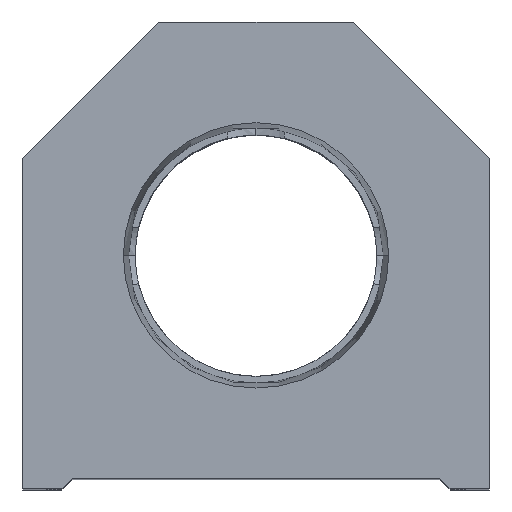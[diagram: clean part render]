
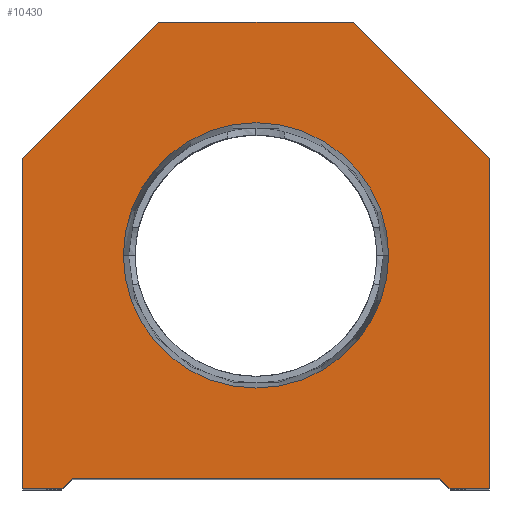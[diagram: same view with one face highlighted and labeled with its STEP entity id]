
A CAD part, top view. The second image highlights one B-rep face of the part: STEP entity #10430.
In plain terms, the highlighted planar face has unit normal (0, 0, 1).
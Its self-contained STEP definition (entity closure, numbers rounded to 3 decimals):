
#131 = EDGE_CURVE ( 'NONE', #5506, #4342, #4603, .T. ) ;
#657 = DIRECTION ( 'NONE',  ( -1., 0., 0. ) ) ;
#836 = ORIENTED_EDGE ( 'NONE', *, *, #2770, .F. ) ;
#989 = CARTESIAN_POINT ( 'NONE',  ( 0., 22.25, 0. ) ) ;
#1023 = CARTESIAN_POINT ( 'NONE',  ( 22.25, 31.5, 0. ) ) ;
#1057 = DIRECTION ( 'NONE',  ( 1., 0., 0. ) ) ;
#1133 = VERTEX_POINT ( 'NONE', #11142 ) ;
#1317 = DIRECTION ( 'NONE',  ( 0., 1., 0. ) ) ;
#1343 = DIRECTION ( 'NONE',  ( -0.707, -0.707, 0. ) ) ;
#1416 = CARTESIAN_POINT ( 'NONE',  ( -9.25, 9.25, 0. ) ) ;
#1571 = ORIENTED_EDGE ( 'NONE', *, *, #9026, .T. ) ;
#1693 = DIRECTION ( 'NONE',  ( 0., -1., 0. ) ) ;
#1852 = FACE_BOUND ( 'NONE', #3216, .T. ) ;
#2054 = VECTOR ( 'NONE', #10414, 1000. ) ;
#2201 = CARTESIAN_POINT ( 'NONE',  ( -22.25, 31.5, 0. ) ) ;
#2367 = DIRECTION ( 'NONE',  ( 0., 0., 1. ) ) ;
#2419 = VERTEX_POINT ( 'NONE', #4222 ) ;
#2427 = CIRCLE ( 'NONE', #9835, 12.647 ) ;
#2480 = VERTEX_POINT ( 'NONE', #5292 ) ;
#2770 = EDGE_CURVE ( 'NONE', #11429, #2480, #2427, .T. ) ;
#2788 = CARTESIAN_POINT ( 'NONE',  ( 12.647, 22.25, 0. ) ) ;
#2912 = DIRECTION ( 'NONE',  ( 1., 0., 0. ) ) ;
#3011 = CARTESIAN_POINT ( 'NONE',  ( -9.25, 44.5, 0. ) ) ;
#3216 = EDGE_LOOP ( 'NONE', ( #836, #7966 ) ) ;
#3247 = ORIENTED_EDGE ( 'NONE', *, *, #7306, .T. ) ;
#3328 = CARTESIAN_POINT ( 'NONE',  ( -17.5, 1., 0. ) ) ;
#3363 = FACE_OUTER_BOUND ( 'NONE', #5759, .T. ) ;
#3619 = LINE ( 'NONE', #8672, #8627 ) ;
#3695 = VERTEX_POINT ( 'NONE', #3011 ) ;
#3752 = AXIS2_PLACEMENT_3D ( 'NONE', #989, #7168, #1057 ) ;
#4113 = LINE ( 'NONE', #12206, #10089 ) ;
#4201 = DIRECTION ( 'NONE',  ( -0.707, 0.707, 0. ) ) ;
#4222 = CARTESIAN_POINT ( 'NONE',  ( 17.5, 1., 0. ) ) ;
#4255 = CARTESIAN_POINT ( 'NONE',  ( 22.25, 0., 0. ) ) ;
#4288 = CARTESIAN_POINT ( 'NONE',  ( 9.25, 44.5, 0. ) ) ;
#4342 = VERTEX_POINT ( 'NONE', #7210 ) ;
#4594 = ORIENTED_EDGE ( 'NONE', *, *, #131, .T. ) ;
#4603 = LINE ( 'NONE', #9715, #5577 ) ;
#4712 = DIRECTION ( 'NONE',  ( 1., 0., 0. ) ) ;
#4868 = CARTESIAN_POINT ( 'NONE',  ( -17.5, 1., 0. ) ) ;
#4903 = EDGE_CURVE ( 'NONE', #7630, #9595, #10255, .T. ) ;
#5129 = ORIENTED_EDGE ( 'NONE', *, *, #8671, .T. ) ;
#5292 = CARTESIAN_POINT ( 'NONE',  ( -12.647, 22.25, 0. ) ) ;
#5457 = LINE ( 'NONE', #2201, #9472 ) ;
#5506 = VERTEX_POINT ( 'NONE', #7326 ) ;
#5577 = VECTOR ( 'NONE', #1693, 1000. ) ;
#5650 = VERTEX_POINT ( 'NONE', #9510 ) ;
#5759 = EDGE_LOOP ( 'NONE', ( #8805, #8532, #5129, #5765, #1571, #10313, #10455, #3247, #9525, #4594 ) ) ;
#5765 = ORIENTED_EDGE ( 'NONE', *, *, #9535, .T. ) ;
#6074 = VECTOR ( 'NONE', #11539, 1000. ) ;
#6179 = EDGE_CURVE ( 'NONE', #4342, #1133, #10000, .T. ) ;
#6457 = LINE ( 'NONE', #3328, #6074 ) ;
#6651 = DIRECTION ( 'NONE',  ( 0., 0., 1. ) ) ;
#7112 = VECTOR ( 'NONE', #1317, 1000. ) ;
#7168 = DIRECTION ( 'NONE',  ( 0., 0., 1. ) ) ;
#7210 = CARTESIAN_POINT ( 'NONE',  ( -22.25, 0., 0. ) ) ;
#7283 = CARTESIAN_POINT ( 'NONE',  ( 0., 0., 0. ) ) ;
#7306 = EDGE_CURVE ( 'NONE', #12756, #3695, #12971, .T. ) ;
#7326 = CARTESIAN_POINT ( 'NONE',  ( -22.25, 31.5, 0. ) ) ;
#7428 = CARTESIAN_POINT ( 'NONE',  ( 22.25, 0., 0. ) ) ;
#7583 = AXIS2_PLACEMENT_3D ( 'NONE', #7283, #2367, #11298 ) ;
#7630 = VERTEX_POINT ( 'NONE', #4255 ) ;
#7966 = ORIENTED_EDGE ( 'NONE', *, *, #8964, .F. ) ;
#7982 = DIRECTION ( 'NONE',  ( 0.707, -0.707, 0. ) ) ;
#8056 = LINE ( 'NONE', #1023, #10919 ) ;
#8253 = VERTEX_POINT ( 'NONE', #4868 ) ;
#8331 = EDGE_CURVE ( 'NONE', #9595, #12756, #8056, .T. ) ;
#8373 = VECTOR ( 'NONE', #2912, 1000. ) ;
#8532 = ORIENTED_EDGE ( 'NONE', *, *, #9686, .T. ) ;
#8627 = VECTOR ( 'NONE', #11456, 1000. ) ;
#8671 = EDGE_CURVE ( 'NONE', #8253, #2419, #6457, .T. ) ;
#8672 = CARTESIAN_POINT ( 'NONE',  ( 17.5, 0., 0. ) ) ;
#8805 = ORIENTED_EDGE ( 'NONE', *, *, #6179, .T. ) ;
#8964 = EDGE_CURVE ( 'NONE', #2480, #11429, #9883, .T. ) ;
#9026 = EDGE_CURVE ( 'NONE', #5650, #7630, #3619, .T. ) ;
#9472 = VECTOR ( 'NONE', #1343, 1000. ) ;
#9510 = CARTESIAN_POINT ( 'NONE',  ( 18.5, 0., 0. ) ) ;
#9525 = ORIENTED_EDGE ( 'NONE', *, *, #9714, .T. ) ;
#9535 = EDGE_CURVE ( 'NONE', #2419, #5650, #4113, .T. ) ;
#9595 = VERTEX_POINT ( 'NONE', #13002 ) ;
#9686 = EDGE_CURVE ( 'NONE', #1133, #8253, #12410, .T. ) ;
#9714 = EDGE_CURVE ( 'NONE', #3695, #5506, #5457, .T. ) ;
#9715 = CARTESIAN_POINT ( 'NONE',  ( -22.25, 0., 0. ) ) ;
#9764 = CARTESIAN_POINT ( 'NONE',  ( 0., 22.25, 0. ) ) ;
#9804 = CARTESIAN_POINT ( 'NONE',  ( 9.25, 44.5, 0. ) ) ;
#9835 = AXIS2_PLACEMENT_3D ( 'NONE', #9764, #6651, #4712 ) ;
#9883 = CIRCLE ( 'NONE', #3752, 12.647 ) ;
#10000 = LINE ( 'NONE', #11993, #8373 ) ;
#10089 = VECTOR ( 'NONE', #7982, 1000. ) ;
#10255 = LINE ( 'NONE', #7428, #7112 ) ;
#10313 = ORIENTED_EDGE ( 'NONE', *, *, #4903, .T. ) ;
#10414 = DIRECTION ( 'NONE',  ( 0.707, 0.707, 0. ) ) ;
#10430 = ADVANCED_FACE ( 'NONE', ( #1852, #3363 ), #11507, .T. ) ;
#10455 = ORIENTED_EDGE ( 'NONE', *, *, #8331, .T. ) ;
#10502 = VECTOR ( 'NONE', #657, 1000. ) ;
#10919 = VECTOR ( 'NONE', #4201, 1000. ) ;
#11142 = CARTESIAN_POINT ( 'NONE',  ( -18.5, 0., 0. ) ) ;
#11298 = DIRECTION ( 'NONE',  ( 1., 0., 0. ) ) ;
#11429 = VERTEX_POINT ( 'NONE', #2788 ) ;
#11456 = DIRECTION ( 'NONE',  ( 1., 0., 0. ) ) ;
#11507 = PLANE ( 'NONE',  #7583 ) ;
#11539 = DIRECTION ( 'NONE',  ( 1., 0., 0. ) ) ;
#11993 = CARTESIAN_POINT ( 'NONE',  ( -17.5, 0., 0. ) ) ;
#12206 = CARTESIAN_POINT ( 'NONE',  ( 9.25, 9.25, 0. ) ) ;
#12410 = LINE ( 'NONE', #1416, #2054 ) ;
#12756 = VERTEX_POINT ( 'NONE', #4288 ) ;
#12971 = LINE ( 'NONE', #9804, #10502 ) ;
#13002 = CARTESIAN_POINT ( 'NONE',  ( 22.25, 31.5, 0. ) ) ;
